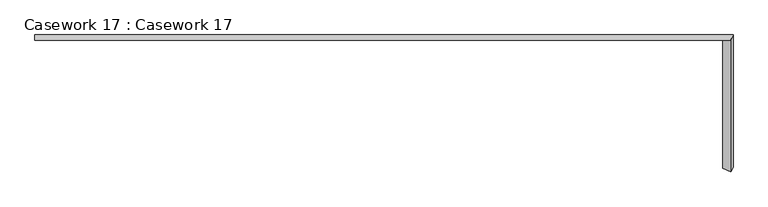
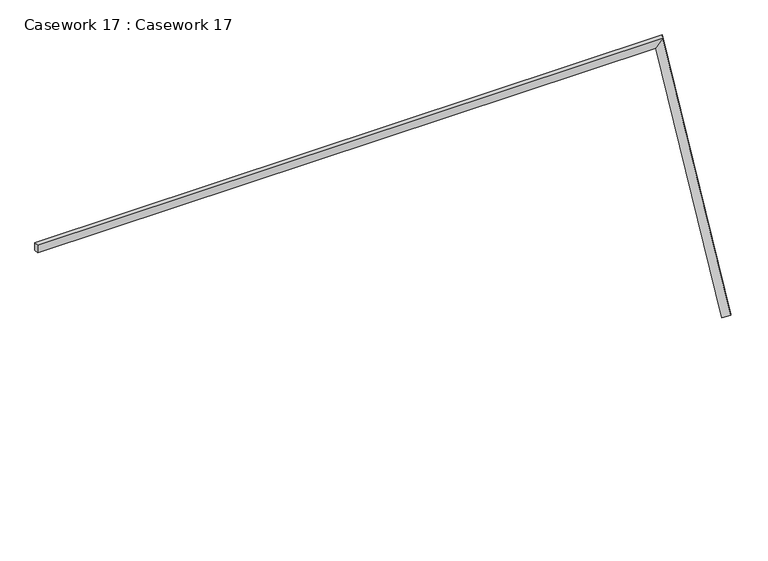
"""IFC4 building model written with IfcOpenShell, lengths in millimetres: furniture geometry, Casework 17 : Casework 17."""

from ifc_helpers import new_model, si_unit, origin, place, context, project, spatial, faceted_brep, source, transform, mapped, element, save


def casework_17_casework_17_51ee024e(model_context):
    return source(origin(), model_context, "Body", "Brep", [
        faceted_brep([(-7628.59105, -4429.7926583, 3772.0748636), (-7628.59105, -4404.7926583, 3772.0748636), (-7628.59105, -4404.7926583, 3732.0748636), (-7628.59105, -4429.7926583, 3732.0748636), (-4437.9953581, -4429.7926583, 3772.0748636), (-4426.2369788, -4404.7926583, 3772.0748636), (-4461.5364933, -4404.7926583, 3732.0748636), (-4473.2948726, -4429.7926583, 3732.0748636), (-4437.9953581, -5031.9397957, 2642.2687773), (-4473.2948726, -5015.3371925, 2633.4201704), (-4461.5364933, -4995.8675718, 2623.0435434), (-4426.2369788, -5012.470175, 2631.8921503)], [[[0, 1, 2, 3]], [[1, 0, 4, 5]], [[2, 1, 5, 6]], [[3, 2, 6, 7]], [[0, 3, 7, 4]], [[8, 9, 10, 11]], [[5, 4, 8, 11]], [[6, 5, 11, 10]], [[7, 6, 10, 9]], [[4, 7, 9, 8]]]),
    ])


if __name__ == "__main__":
    model = new_model("IFC4")
    model_context = context("Model", 3, world=origin())
    ifc_project = project(units=[si_unit("LENGTHUNIT", "METRE", prefix="MILLI")], contexts=[model_context])
    site = spatial("IfcSite", under=ifc_project)
    building = spatial("IfcBuilding", under=site)
    placement = place(None, origin())
    casework_17_casework_17_shape = casework_17_casework_17_51ee024e(model_context)
    element("IfcFurniture", 1, ObjectType="Casework 17 : Casework 17", at=placement, inside=building, context=model_context, shape_type="MappedRepresentation", body=[
        mapped(casework_17_casework_17_shape, transform((0.0, 0.0, 0.0), x_axis=(1.0, 0.0, 0.0), y_axis=(0.0, 1.0, 0.0), z_axis=(0.0, 0.0, 1.0))),
    ])
    save(model, "model.ifc")
